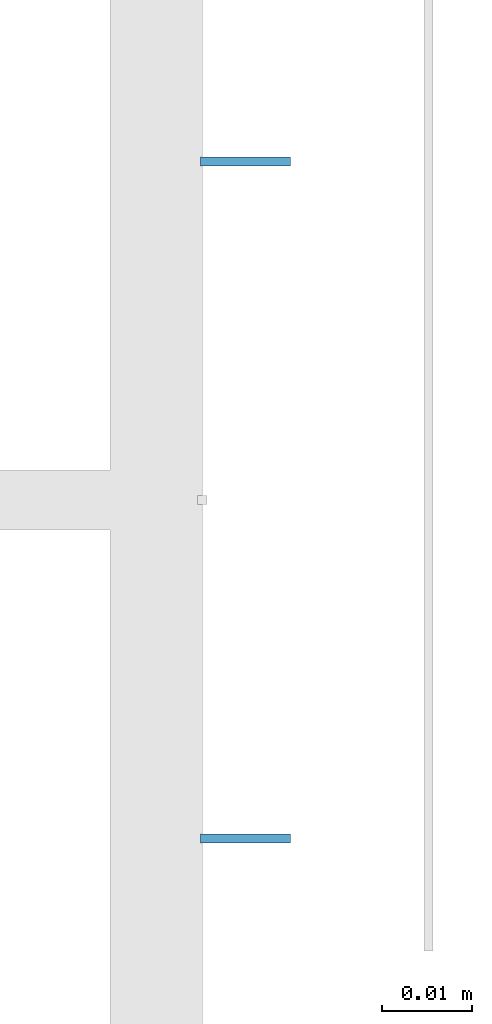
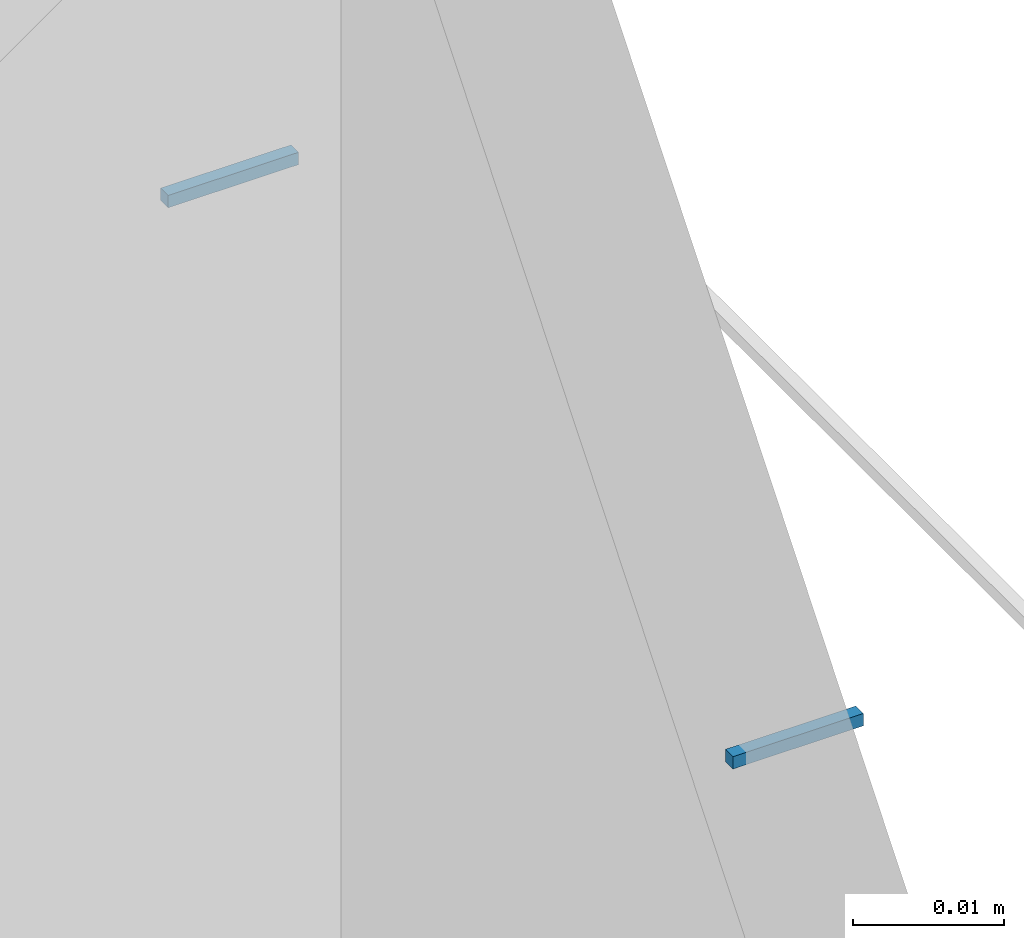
# One storey, part 75 of 186: 2 beams.
"""IFC4X3_ADD2 building model written with IfcOpenShell, lengths in millimetres."""

from ifc_helpers import new_model, si_unit, direction, frame, frame_2d, origin_with_axes, place, context, subcontext, project, spatial, rectangle, extrude, material, element, save


model = new_model("IFC4X3_ADD2")

# Units and contexts
model_context = context("Model", 3, precision=1e-05, world=origin_with_axes(), true_north=direction((0.0, 1.0)))
body_context = subcontext(model_context, "Body", "Model", "MODEL_VIEW")
ifc_project = project(units=[si_unit("LENGTHUNIT", "METRE", prefix="MILLI"), si_unit("AREAUNIT", "SQUARE_METRE"), si_unit("VOLUMEUNIT", "CUBIC_METRE"), si_unit("PLANEANGLEUNIT", "RADIAN"), si_unit("TIMEUNIT", "SECOND"), si_unit("MASSUNIT", "GRAM")], contexts=[model_context])

# Site, building, storey
site_placement = place(None, origin_with_axes())
site = spatial("IfcSite", under=ifc_project, at=site_placement, Name="Site", CompositionType="ELEMENT")
building_placement = place(site_placement, origin_with_axes())
building = spatial("IfcBuilding", under=site, at=building_placement, Name="IFC Building Story")
storey_placement = place(building_placement, frame((0.0, 0.0, 4370.0), z_axis=(0.0, 0.0, 1.0), x_axis=(1.0, 0.0, 0.0)))
storey = spatial("IfcBuildingStorey", under=building, at=storey_placement, Name="ETAGE 10 (1)", Elevation=4370.0)

# Beams
ifc_material = material(Name="STEEL/Accessory_invisible")
for number, where, z_axis, x_axis, name in (
    (1, (4787.889777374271, 9037.49972534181, 3859.5), (-1.0, 0.0, 0.0), (0.0, 1.0, 0.0), "MP21"),
    (2, (4787.889777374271, 8962.49972534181, 3859.5), (-1.0, 0.0, 0.0), (0.0, 1.0, 0.0), "MP21"),
):
    element("IfcBeam", number, at=place(storey_placement, frame(where, z_axis=z_axis, x_axis=x_axis)), inside=storey, material=ifc_material, Name=name, ObjectType="1*1 3", context=body_context, shape_type="SweptSolid", body=[
        extrude(rectangle(XDim=0.9999999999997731, YDim=0.9999999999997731, at=frame_2d((0.0, 5.95523630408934e-12), x_axis=(1.0, 0.0))), origin_with_axes(), (0.0, 0.0, 1.0), 10.0),
    ])

save(model, "model.ifc")
